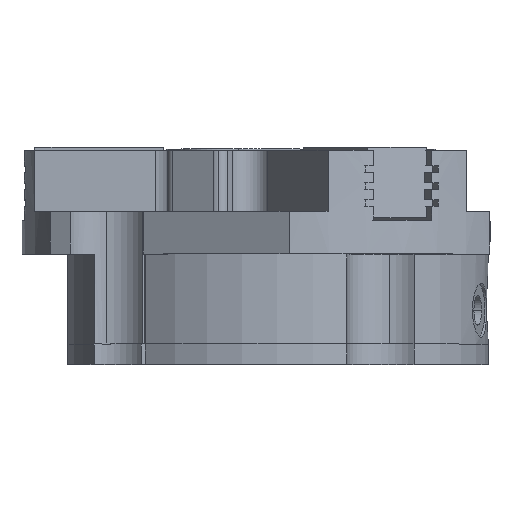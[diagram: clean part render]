
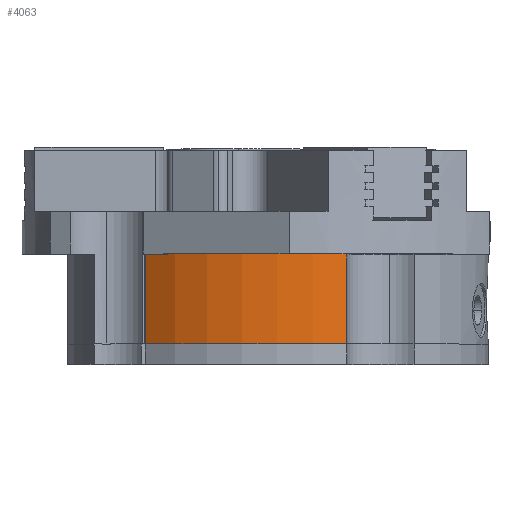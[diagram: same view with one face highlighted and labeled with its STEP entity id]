
A CAD part, top view. The second image highlights one B-rep face of the part: STEP entity #4063.
In plain terms, the highlighted cylindrical face has radius 62.5 mm (diameter 125 mm), a partial arc.
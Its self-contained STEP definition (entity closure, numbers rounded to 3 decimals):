
#144 = EDGE_LOOP ( 'NONE', ( #7388, #6485, #8952, #9349 ) ) ;
#327 = CIRCLE ( 'NONE', #8926, 62.5 ) ;
#987 = LINE ( 'NONE', #9838, #1795 ) ;
#1795 = VECTOR ( 'NONE', #10843, 1000. ) ;
#2625 = DIRECTION ( 'NONE',  ( 0., 0., -1. ) ) ;
#3232 = DIRECTION ( 'NONE',  ( 0., 0., -1. ) ) ;
#3419 = CARTESIAN_POINT ( 'NONE',  ( -38.659, -30.5, 49.109 ) ) ;
#3472 = DIRECTION ( 'NONE',  ( 0., -1., 0. ) ) ;
#3574 = VERTEX_POINT ( 'NONE', #12567 ) ;
#3679 = CARTESIAN_POINT ( 'NONE',  ( 0., -30.5, 0. ) ) ;
#3715 = AXIS2_PLACEMENT_3D ( 'NONE', #3679, #8989, #10147 ) ;
#4063 = ADVANCED_FACE ( 'NONE', ( #12992 ), #8788, .T. ) ;
#4531 = CARTESIAN_POINT ( 'NONE',  ( 20.822, -30.5, 58.93 ) ) ;
#4665 = VERTEX_POINT ( 'NONE', #8512 ) ;
#5251 = EDGE_CURVE ( 'NONE', #4665, #6316, #987, .T. ) ;
#6316 = VERTEX_POINT ( 'NONE', #4531 ) ;
#6485 = ORIENTED_EDGE ( 'NONE', *, *, #7601, .T. ) ;
#6647 = CARTESIAN_POINT ( 'NONE',  ( 0., -30.5, 0. ) ) ;
#7388 = ORIENTED_EDGE ( 'NONE', *, *, #5251, .T. ) ;
#7480 = CARTESIAN_POINT ( 'NONE',  ( 0., -57., 0. ) ) ;
#7601 = EDGE_CURVE ( 'NONE', #6316, #9126, #11598, .T. ) ;
#8035 = DIRECTION ( 'NONE',  ( 0., -1., 0. ) ) ;
#8462 = VECTOR ( 'NONE', #8035, 1000. ) ;
#8512 = CARTESIAN_POINT ( 'NONE',  ( 20.822, -57., 58.93 ) ) ;
#8788 = CYLINDRICAL_SURFACE ( 'NONE', #3715, 62.5 ) ;
#8926 = AXIS2_PLACEMENT_3D ( 'NONE', #7480, #9714, #3232 ) ;
#8952 = ORIENTED_EDGE ( 'NONE', *, *, #12116, .T. ) ;
#8989 = DIRECTION ( 'NONE',  ( 0., -1., 0. ) ) ;
#9126 = VERTEX_POINT ( 'NONE', #3419 ) ;
#9349 = ORIENTED_EDGE ( 'NONE', *, *, #9991, .T. ) ;
#9714 = DIRECTION ( 'NONE',  ( 0., 1., 0. ) ) ;
#9838 = CARTESIAN_POINT ( 'NONE',  ( 20.822, -6.283, 58.93 ) ) ;
#9991 = EDGE_CURVE ( 'NONE', #3574, #4665, #327, .T. ) ;
#10147 = DIRECTION ( 'NONE',  ( 0., 0., -1. ) ) ;
#10843 = DIRECTION ( 'NONE',  ( 0., 1., 0. ) ) ;
#10904 = AXIS2_PLACEMENT_3D ( 'NONE', #6647, #3472, #2625 ) ;
#11209 = CARTESIAN_POINT ( 'NONE',  ( -38.659, -30.5, 49.109 ) ) ;
#11598 = CIRCLE ( 'NONE', #10904, 62.5 ) ;
#12116 = EDGE_CURVE ( 'NONE', #9126, #3574, #12474, .T. ) ;
#12474 = LINE ( 'NONE', #11209, #8462 ) ;
#12567 = CARTESIAN_POINT ( 'NONE',  ( -38.659, -57., 49.109 ) ) ;
#12992 = FACE_OUTER_BOUND ( 'NONE', #144, .T. ) ;
